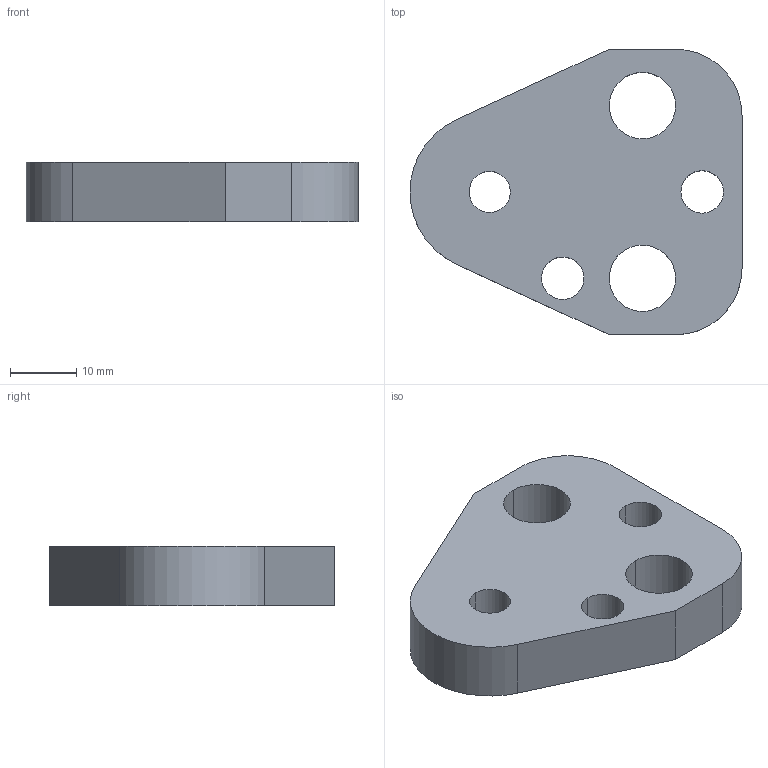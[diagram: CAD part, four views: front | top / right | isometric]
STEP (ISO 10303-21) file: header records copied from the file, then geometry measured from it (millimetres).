
FILE_DESCRIPTION(/* description */ (''),/* implementation_level */ '2;1');
FILE_NAME(/* name */ '3d_bpc13-9_03431_r00.stp',/* time_stamp */ '2011-01-10T14:17:10+09:00',/* author */ ('MISUMI'),/* organization */ (''),/* preprocessor_version */ 'ST-DEVELOPER v11',/* originating_system */ 'UGS - NX 5.0',/* authorisation */ '');
FILE_SCHEMA (('CONFIG_CONTROL_DESIGN'));
Length unit declared in the file: millimetre
Products named in the file (1): 3d_bpc13-9_03431_r00
Bounding box: 50 x 43 x 9 mm (x, y, z)
Volume: 12785.7 mm3; surface area: 5316 mm2
Topology: 1 solids, 1 shells, 20 faces, 54 edges, 36 vertices
Faces by surface type: cylinder 13, plane 7
Entity records: 750 total; most frequent: DIRECTION 122, CARTESIAN_POINT 111, ORIENTED_EDGE 108, EDGE_CURVE 54, AXIS2_PLACEMENT_3D 47, VERTEX_POINT 36, EDGE_LOOP 30, LINE 28
